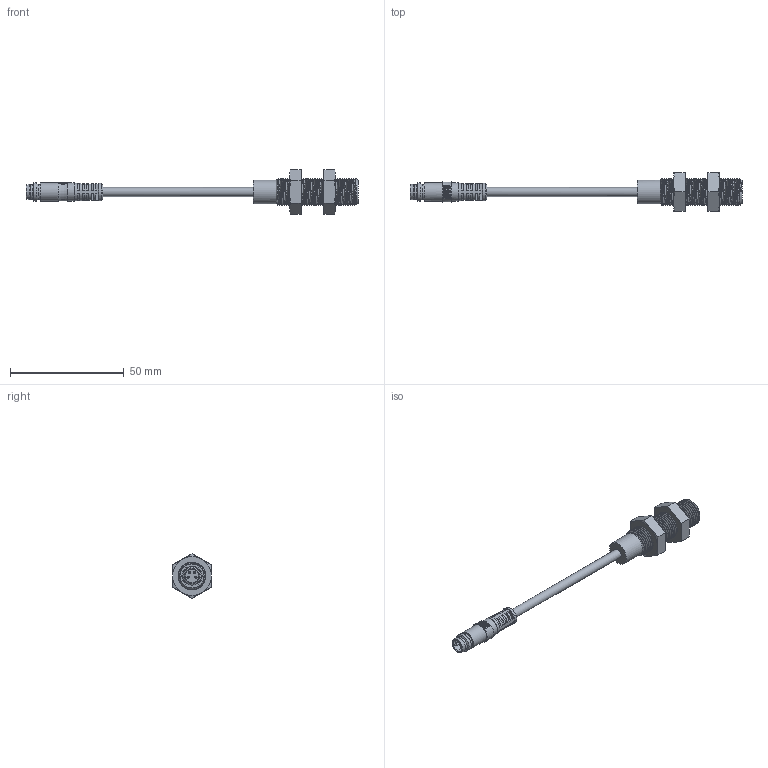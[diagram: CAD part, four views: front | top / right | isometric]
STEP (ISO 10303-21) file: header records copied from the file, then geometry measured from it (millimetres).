
FILE_DESCRIPTION(/* description */ ('Katalogmodell Elobau'),/* implementation_level */ '2;1');
FILE_NAME(/* name */ 'Katalogdaten.stp',/* time_stamp */ '2014-09-11T08:25:10+02:00',/* author */ ('Elobau GmbH & Co. KG'),/* organization */ ('Elobau GmbH & Co. KG'),/* preprocessor_version */ 'ST-DEVELOPER v15',/* originating_system */ 'SIEMENS PLM Software NX 8.5',/* authorisation */ '');
FILE_SCHEMA (('AUTOMOTIVE_DESIGN { 1 0 10303 214 3 1 1 1 }'));
Length unit declared in the file: millimetre
Products named in the file (1): 12227102_C
Bounding box: 146 x 17 x 19.63 mm (x, y, z)
Volume: 9188 mm3; surface area: 6432.9 mm2
Topology: 3 solids, 10 shells, 595 faces, 1601 edges, 1062 vertices
Faces by surface type: plane 511, cylinder 39, cone 35, torus 4, sphere 4, bspline 2
Full cylindrical faces by diameter (mm): 1 x8, 4 x1, 5.75 x2, 6.5 x2, 6.54 x1, 7.8 x1, 8 x3, 10.5 x1
Entity records: 28872 total; most frequent: CARTESIAN_POINT 13475, DIRECTION 3523, ORIENTED_EDGE 3078, EDGE_CURVE 1539, AXIS2_PLACEMENT_3D 1436, VERTEX_POINT 1036, EDGE_LOOP 673, LINE 651
